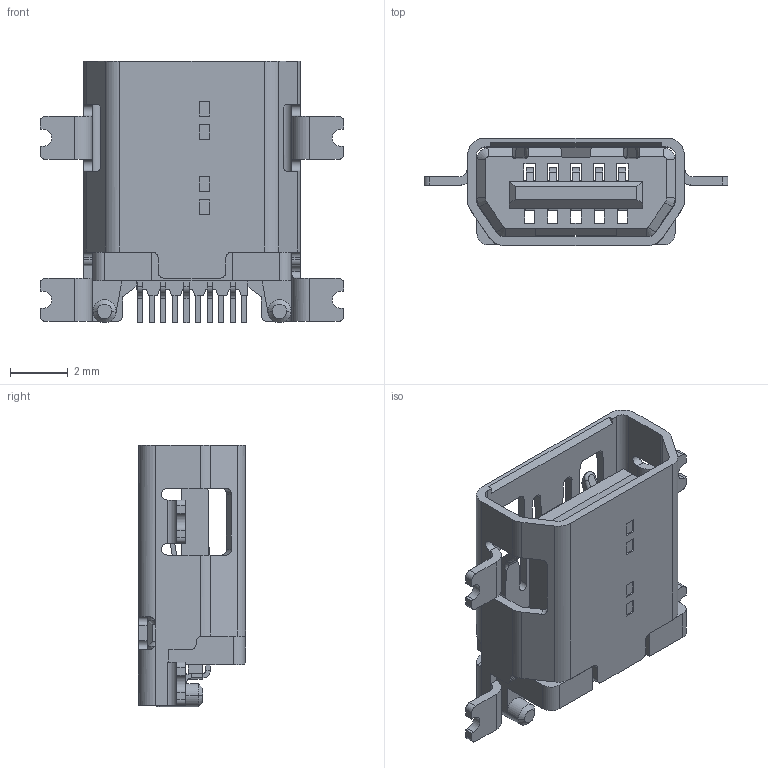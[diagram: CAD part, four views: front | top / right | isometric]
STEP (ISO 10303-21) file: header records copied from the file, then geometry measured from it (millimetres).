
FILE_DESCRIPTION((''),'2;1');
FILE_NAME('MINI-USB_1031003AR006','2018-12-13T',('Administrator'),(''),'PRO/ENGINEER BY PARAMETRIC TECHNOLOGY CORPORATION, 2010280','PRO/ENGINEER BY PARAMETRIC TECHNOLOGY CORPORATION, 2010280','');
FILE_SCHEMA(('CONFIG_CONTROL_DESIGN'));
Length unit declared in the file: millimetre
Products named in the file (1): MINI-USB_1031003AR006
Bounding box: 10.5 x 3.7 x 9.05 mm (x, y, z)
Volume: 95.4 mm3; surface area: 583 mm2
Topology: 1 solids, 13 shells, 1032 faces, 2927 edges, 1874 vertices
Faces by surface type: plane 698, cylinder 276, bspline 38, cone 14, torus 6
Entity records: 34373 total; most frequent: CARTESIAN_POINT 7602, ORIENTED_EDGE 5810, DIRECTION 5224, EDGE_CURVE 2927, VECTOR 2300, LINE 2300, VERTEX_POINT 1874, AXIS2_PLACEMENT_3D 1462
